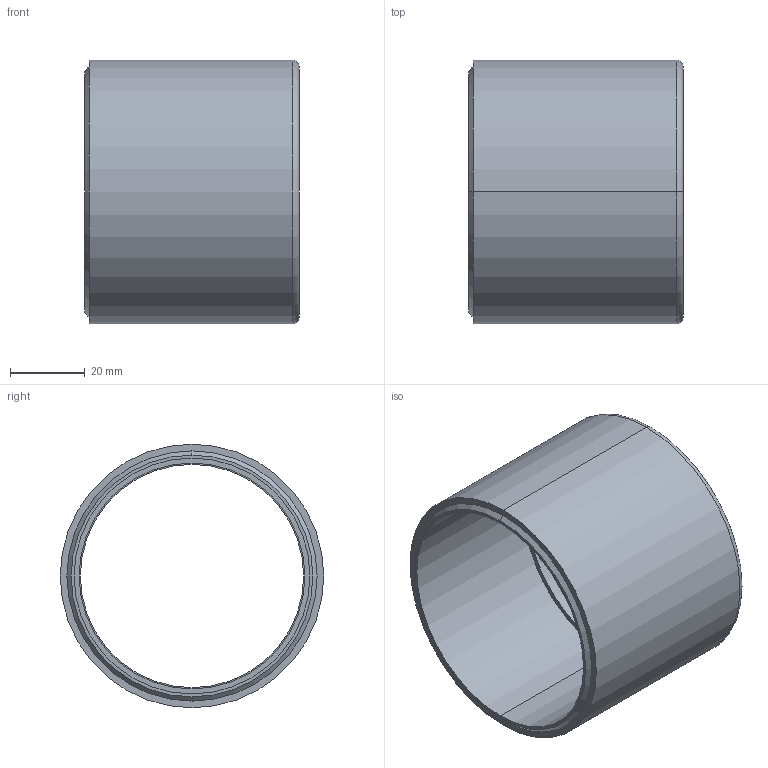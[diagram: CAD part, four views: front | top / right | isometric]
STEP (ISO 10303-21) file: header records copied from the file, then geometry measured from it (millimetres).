
FILE_DESCRIPTION (( 'STEP AP214' ), '1' );
FILE_NAME ('CR-INFV-16-17.STEP', '2020-12-10T17:01:02', ( '' ), ( '' ), 'SwSTEP 2.0', 'SolidWorks 2019', '' );
FILE_SCHEMA (( 'AUTOMOTIVE_DESIGN' ));
Length unit declared in the file: inch
Products named in the file (1): CR-INFV-16-17
Bounding box: 57.51 x 70.69 x 70.69 mm (x, y, z)
Volume: 49360.8 mm3; surface area: 25910.3 mm2
Topology: 1 solids, 1 shells, 20 faces, 40 edges, 26 vertices
Faces by surface type: cylinder 10, plane 6, cone 2, torus 2
Entity records: 840 total; most frequent: DIRECTION 110, CARTESIAN_POINT 87, ORIENTED_EDGE 80, AXIS2_PLACEMENT_3D 49, EDGE_CURVE 40, CIRCLE 28, EDGE_LOOP 26, VERTEX_POINT 26
